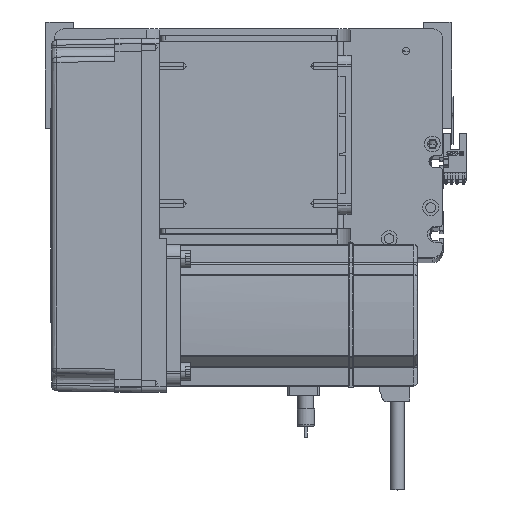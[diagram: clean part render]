
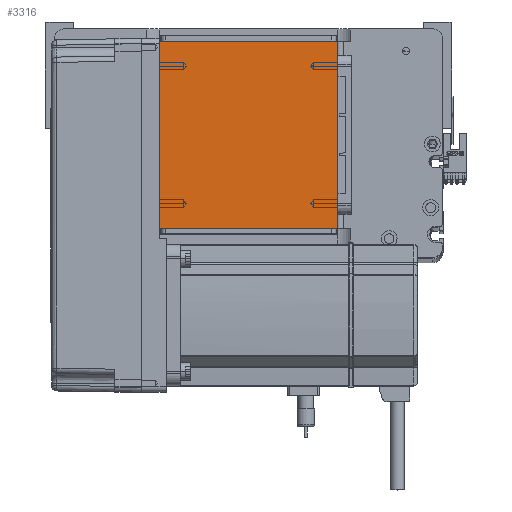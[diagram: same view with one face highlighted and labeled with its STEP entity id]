
A CAD part, top view. The second image highlights one B-rep face of the part: STEP entity #3316.
In plain terms, the highlighted planar face has unit normal (0, 0, 1).
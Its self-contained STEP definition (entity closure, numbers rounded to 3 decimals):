
#416 = DIRECTION ( 'NONE',  ( 0., -1., 0. ) ) ;
#773 = CARTESIAN_POINT ( 'NONE',  ( -50.5, 122., 115. ) ) ;
#3316 = ADVANCED_FACE ( 'NONE', ( #15394 ), #39478, .T. ) ;
#3559 = EDGE_CURVE ( 'NONE', #6150, #29408, #52345, .T. ) ;
#6150 = VERTEX_POINT ( 'NONE', #19378 ) ;
#6394 = DIRECTION ( 'NONE',  ( 1., 0., 0. ) ) ;
#7406 = DIRECTION ( 'NONE',  ( -1., 0., 0. ) ) ;
#8572 = VERTEX_POINT ( 'NONE', #29193 ) ;
#8896 = AXIS2_PLACEMENT_3D ( 'NONE', #32334, #48396, #44639 ) ;
#9309 = ORIENTED_EDGE ( 'NONE', *, *, #10935, .T. ) ;
#10935 = EDGE_CURVE ( 'NONE', #29130, #8572, #16497, .T. ) ;
#13447 = EDGE_LOOP ( 'NONE', ( #26862, #52186, #27356, #9309 ) ) ;
#15394 = FACE_OUTER_BOUND ( 'NONE', #13447, .T. ) ;
#15854 = VECTOR ( 'NONE', #416, 1000. ) ;
#16497 = LINE ( 'NONE', #32003, #19696 ) ;
#18381 = CARTESIAN_POINT ( 'NONE',  ( -50.5, 16., 115. ) ) ;
#19378 = CARTESIAN_POINT ( 'NONE',  ( -50.5, 16., 115. ) ) ;
#19696 = VECTOR ( 'NONE', #7406, 1000. ) ;
#26862 = ORIENTED_EDGE ( 'NONE', *, *, #36070, .T. ) ;
#27356 = ORIENTED_EDGE ( 'NONE', *, *, #28692, .T. ) ;
#28692 = EDGE_CURVE ( 'NONE', #29408, #29130, #47983, .T. ) ;
#29130 = VERTEX_POINT ( 'NONE', #48750 ) ;
#29193 = CARTESIAN_POINT ( 'NONE',  ( -50.5, 122., 115. ) ) ;
#29408 = VERTEX_POINT ( 'NONE', #38511 ) ;
#32003 = CARTESIAN_POINT ( 'NONE',  ( -50.5, 122., 115. ) ) ;
#32334 = CARTESIAN_POINT ( 'NONE',  ( 0., 0., 115. ) ) ;
#34971 = LINE ( 'NONE', #773, #15854 ) ;
#36070 = EDGE_CURVE ( 'NONE', #8572, #6150, #34971, .T. ) ;
#37008 = CARTESIAN_POINT ( 'NONE',  ( 50.5, 122., 115. ) ) ;
#38511 = CARTESIAN_POINT ( 'NONE',  ( 50.5, 16., 115. ) ) ;
#39478 = PLANE ( 'NONE',  #8896 ) ;
#40835 = VECTOR ( 'NONE', #6394, 1000. ) ;
#44639 = DIRECTION ( 'NONE',  ( 1., 0., 0. ) ) ;
#47983 = LINE ( 'NONE', #37008, #49267 ) ;
#48396 = DIRECTION ( 'NONE',  ( 0., 0., 1. ) ) ;
#48750 = CARTESIAN_POINT ( 'NONE',  ( 50.5, 122., 115. ) ) ;
#49267 = VECTOR ( 'NONE', #49831, 1000. ) ;
#49831 = DIRECTION ( 'NONE',  ( 0., 1., 0. ) ) ;
#52186 = ORIENTED_EDGE ( 'NONE', *, *, #3559, .T. ) ;
#52345 = LINE ( 'NONE', #18381, #40835 ) ;
